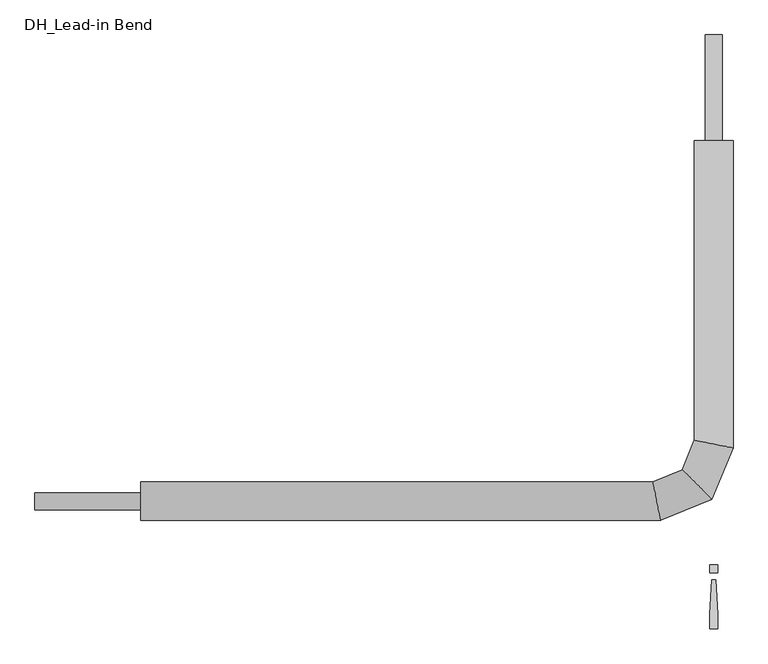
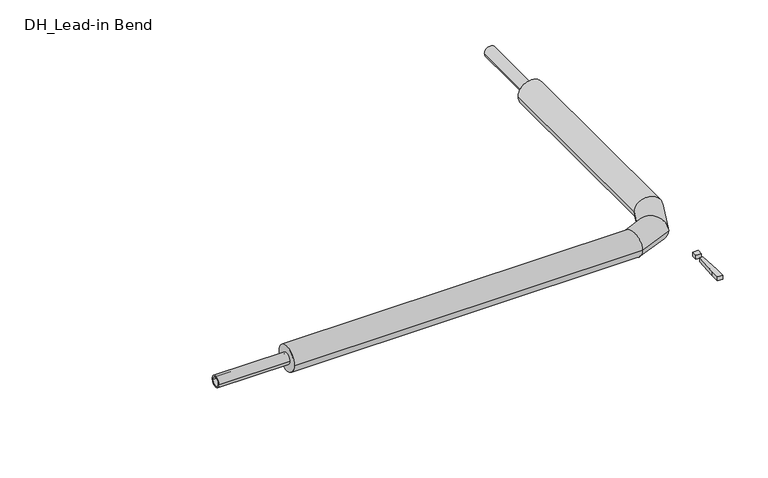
"""IFC4 building model written with IfcOpenShell, lengths in millimetres: pipe fitting geometry, DH_Lead-in Bend : RVT/RVX/RTX UNO 7.4 DW."""

from ifc_helpers import new_model, si_unit, point, frame, origin, origin_with_axes, origin_2d, place, context, project, spatial, polyline, circle_curve, ellipse_curve, trimmed, segment, composite_curve, outline, extrude, source, transform, mapped, element, save
from ifc_brep_helpers import plane_surface, cylinder_surface, advanced_brep


def dh_lead_in_bend_a989b2fb(model_context):
    return source(origin(), model_context, "Body", "SolidModel", [
        advanced_brep(
        [(-1350.0, -45.5, 0.0), (-1350.0, 45.5, 0.0), (-126.0494873, -45.5, 0.0), (-144.1505127, 45.5, 0.0), (45.5, 850.0, 0.0), (-45.5, 850.0, 0.0), (-45.5, 144.1505127, 0.0), (45.5, 126.0494873, 0.0), (-4.7456815, 4.7456815, 0.0), (-74.3940662, 74.3940662, 0.0)],
        [
            (0, 1, circle_curve(frame((-1350.0, 0.0, 0.0), z_axis=(-1.0, 0.0, 0.0), x_axis=(0.0, 1.0, 0.0)), 45.5)),
            (1, 0, circle_curve(frame((-1350.0, 0.0, 0.0), z_axis=(-1.0, 0.0, 0.0), x_axis=(0.0, 1.0, 0.0)), 45.5)),
            (0, 2),
            (2, 3, ellipse_curve(frame((-135.1, 0.0, 0.0), z_axis=(-0.9807852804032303, -0.19509032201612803, 0.0), x_axis=(-0.19509032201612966, 0.9807852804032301, 0.0)), 46.3913977, 45.5)),
            (3, 1),
            (3, 2, ellipse_curve(frame((-135.1, 0.0, 0.0), z_axis=(-0.9807852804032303, -0.19509032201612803, 0.0), x_axis=(-0.19509032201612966, 0.9807852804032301, 0.0)), 46.3913977, 45.5)),
            (4, 5, circle_curve(frame((0.0, 850.0, 0.0), z_axis=(0.0, 1.0, 0.0), x_axis=(-1.0, 0.0, 0.0)), 45.5)),
            (5, 4, circle_curve(frame((0.0, 850.0, 0.0), z_axis=(0.0, 1.0, 0.0), x_axis=(-1.0, 0.0, 0.0)), 45.5)),
            (6, 7, ellipse_curve(frame((0.0, 135.1, 0.0), z_axis=(0.19509032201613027, 0.9807852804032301, 0.0), x_axis=(0.9807852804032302, -0.19509032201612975, 0.0)), 46.3913977, 45.5)),
            (7, 4),
            (5, 6),
            (7, 6, ellipse_curve(frame((0.0, 135.1, 0.0), z_axis=(0.19509032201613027, 0.9807852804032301, 0.0), x_axis=(0.9807852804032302, -0.19509032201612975, 0.0)), 46.3913977, 45.5)),
            (2, 8),
            (8, 9, ellipse_curve(frame((-39.5698739, 39.5698739, 0.0), z_axis=(-0.7071067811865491, -0.7071067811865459, 0.0), x_axis=(-0.7071067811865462, 0.7071067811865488, 0.0)), 49.2488451, 45.5)),
            (9, 3),
            (9, 8, ellipse_curve(frame((-39.5698739, 39.5698739, 0.0), z_axis=(-0.7071067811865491, -0.7071067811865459, 0.0), x_axis=(-0.7071067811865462, 0.7071067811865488, 0.0)), 49.2488451, 45.5)),
            (8, 7),
            (6, 9),
        ],
        [
            plane_surface(frame((-1350.0, 0.0, 0.0), z_axis=(-1.0, 0.0, 0.0), x_axis=(0.0, 0.0, 1.0))),
            cylinder_surface(frame((-1350.0, 0.0, 0.0), z_axis=(-1.0, 0.0, 0.0), x_axis=(0.0, 1.0, 0.0)), 45.5),
            plane_surface(frame((0.0, 850.0, 0.0), z_axis=(0.0, 1.0, 0.0), x_axis=(0.0, 0.0, 1.0))),
            cylinder_surface(frame((0.0, 135.1, 0.0), z_axis=(0.0, -1.0, 0.0), x_axis=(-1.0, 0.0, 0.0)), 45.5),
            cylinder_surface(frame((-135.1, 0.0, 0.0), z_axis=(-0.923879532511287, -0.3826834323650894, 0.0), x_axis=(-0.3826834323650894, 0.923879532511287, 0.0)), 45.5),
            cylinder_surface(frame((-39.5698739, 39.5698739, 0.0), z_axis=(-0.38268343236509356, -0.9238795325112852, 0.0), x_axis=(-0.9238795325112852, 0.38268343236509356, 0.0)), 45.5),
        ],
        [
            (0, [[1, 2]]),
            (1, [[-1, 3, 4, 5]]),
            (1, [[-2, -5, 6, -3]]),
            (2, [[7, 8]]),
            (3, [[9, 10, -8, 11]]),
            (3, [[12, -11, -7, -10]]),
            (4, [[-4, 13, 14, 15]]),
            (4, [[-6, -15, 16, -13]]),
            (5, [[-14, 17, -9, 18]]),
            (5, [[-16, -18, -12, -17]]),
        ],
    ),
        extrude(outline(polyline([(4.7088895, -185.3166715), (9.4177791, -266.6553807), (9.4177791, -300.6844652), (-9.4177791, -300.6844652), (-9.4177791, -266.6553807), (-4.7088895, -185.3166715), (4.7088895, -185.3166715)])), origin_with_axes(), (0.0, 0.0, 1.0), 15.0),
        extrude(outline(polyline([(9.4177791, -150.0), (9.4177791, -168.8355582), (-9.4177791, -168.8355582), (-9.4177791, -150.0), (9.4177791, -150.0)])), origin_with_axes(), (0.0, 0.0, 1.0), 15.0),
        extrude(outline(composite_curve([segment(trimmed(circle_curve(origin_2d(), 20.0), [point((-20.0, 0.0))], [point((20.0, 0.0))], False, "CARTESIAN"), True, "CONTINUOUS"), segment(trimmed(circle_curve(origin_2d(), 20.0), [point((20.0, 0.0))], [point((-20.0, 0.0))], False, "CARTESIAN"), True, "CONTINUOUS")], self_intersect=False), holes=[composite_curve([segment(trimmed(circle_curve(origin_2d(), 14.5), [point((-14.5, 0.0))], [point((14.5, 0.0))], True, "CARTESIAN"), True, "CONTINUOUS"), segment(trimmed(circle_curve(origin_2d(), 14.5), [point((14.5, 0.0))], [point((-14.5, 0.0))], True, "CARTESIAN"), True, "CONTINUOUS")], self_intersect=False)]), frame((-1600.0, 0.0, 0.0), z_axis=(1.0, 0.0, 0.0), x_axis=(0.0, 1.0, 0.0)), (0.0, 0.0, 1.0), 250.0),
        extrude(outline(composite_curve([segment(trimmed(circle_curve(origin_2d(), 20.0), [point((0.0, 20.0))], [point((0.0, -20.0))], False, "CARTESIAN"), True, "CONTINUOUS"), segment(trimmed(circle_curve(origin_2d(), 20.0), [point((0.0, -20.0))], [point((0.0, 20.0))], False, "CARTESIAN"), True, "CONTINUOUS")], self_intersect=False), holes=[composite_curve([segment(trimmed(circle_curve(origin_2d(), 14.5), [point((0.0, 14.5))], [point((0.0, -14.5))], True, "CARTESIAN"), True, "CONTINUOUS"), segment(trimmed(circle_curve(origin_2d(), 14.5), [point((0.0, -14.5))], [point((0.0, 14.5))], True, "CARTESIAN"), True, "CONTINUOUS")], self_intersect=False)]), frame((0.0, 850.0, 0.0), z_axis=(0.0, 1.0, 0.0), x_axis=(0.0, 0.0, 1.0)), (0.0, 0.0, 1.0), 250.0),
    ])


if __name__ == "__main__":
    model = new_model("IFC4")
    model_context = context("Model", 3, world=origin())
    ifc_project = project(units=[si_unit("LENGTHUNIT", "METRE", prefix="MILLI")], contexts=[model_context])
    site = spatial("IfcSite", under=ifc_project)
    building = spatial("IfcBuilding", under=site)
    placement = place(None, origin())
    dh_lead_in_bend_shape = dh_lead_in_bend_a989b2fb(model_context)
    element("IfcPipeFitting", 1, ObjectType="DH_Lead-in Bend : RVT/RVX/RTX UNO 7.4 DW", at=placement, inside=building, context=model_context, shape_type="MappedRepresentation", body=[
        mapped(dh_lead_in_bend_shape, transform((0.0, 0.0, 0.0), x_axis=(1.0, 0.0, 0.0), y_axis=(0.0, 1.0, 0.0), z_axis=(0.0, 0.0, 1.0))),
    ])
    save(model, "model.ifc")
